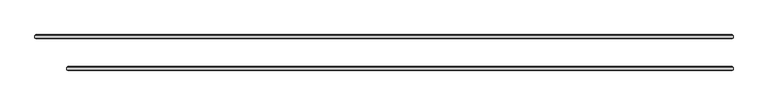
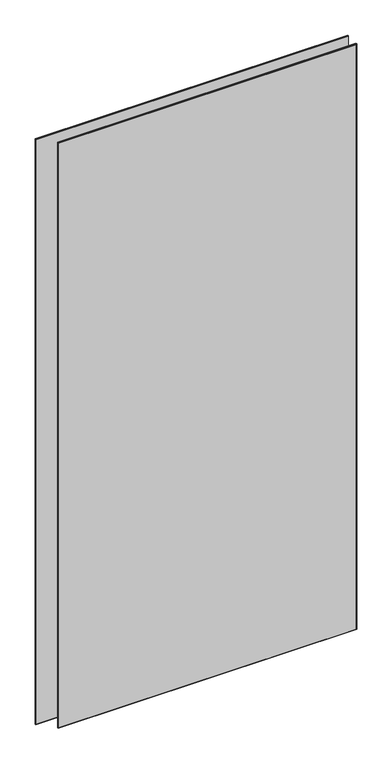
"""IFC4 building model written with IfcOpenShell, lengths in millimetres: plate geometry, 3-AMG-2-Панель двойной витраж 8, 10 : Смещение 32 Толщина 8mm."""

import ifcopenshell
import ifcopenshell.guid

model = None  # the IFC model being written
_history = None  # IfcOwnerHistory: only IFC2X3 demands one
_inside = {}  # id of a spatial element -> (the spatial element, [elements in it])
_under = {}  # id of a project, library or spatial element -> (it, [spatial elements below it])
_declared = {}  # id of a project -> (the project, [libraries it declares])
_typed = {}  # id of a type object -> (the type object, [elements of that type])
_made_of = {}  # id of a material, layer set ... -> (it, [elements and type objects made of it])


def new_model(schema):
    """Start an empty IFC model of exactly this schema.

    Asked for "IFC4X3", IfcOpenShell would pick the latest addendum, in which some entities
    have other attributes; the version numbers below select the first issue.
    IFC2X3 requires an IfcOwnerHistory on every rooted entity: one is made here for all.
    """
    global model, _history
    if schema == "IFC4X3":
        model = ifcopenshell.file(schema_version=(4, 3, 0, 0))
    else:
        model = ifcopenshell.file(schema=schema)
    _inside.clear()
    _under.clear()
    _declared.clear()
    _typed.clear()
    _made_of.clear()
    _history = None
    if model.schema == "IFC2X3":
        org = make("IfcOrganization", Name="unknown")
        user = make(
            "IfcPersonAndOrganization",
            ThePerson=make("IfcPerson", FamilyName="unknown"),
            TheOrganization=org,
        )
        app = make(
            "IfcApplication",
            ApplicationDeveloper=org,
            Version="unknown",
            ApplicationFullName="unknown",
            ApplicationIdentifier="unknown",
        )
        _history = make(
            "IfcOwnerHistory",
            OwningUser=user,
            OwningApplication=app,
            ChangeAction="ADDED",
            CreationDate=0,
        )
    return model


def make(cls, **values):
    """One entity of the class cls with the attributes given. An attribute that is None is left unset."""
    return model.create_entity(
        cls, **{name: value for name, value in values.items() if value is not None}
    )


def rooted(cls, **values):
    """An entity with a GlobalId (a new one), such as an element, a storey or a relation."""
    return make(cls, GlobalId=ifcopenshell.guid.new(), OwnerHistory=_history, **values)


def si_unit(unit_type, name, prefix=None):
    """IfcSIUnit, for example si_unit("LENGTHUNIT", "METRE", prefix="MILLI")."""
    return make("IfcSIUnit", UnitType=unit_type, Prefix=prefix, Name=name)


def assignment(units):
    """IfcUnitAssignment: the units of a project."""
    return None if units is None else make("IfcUnitAssignment", Units=units)


def point(xyz):
    """IfcCartesianPoint."""
    return None if xyz is None else make("IfcCartesianPoint", Coordinates=xyz)


def direction(xyz):
    """IfcDirection."""
    return None if xyz is None else make("IfcDirection", DirectionRatios=xyz)


def frame(location, z_axis=None, x_axis=None):
    """IfcAxis2Placement3D, a coordinate frame: its origin and axes. An axis left out is left unset."""
    return make(
        "IfcAxis2Placement3D",
        Location=point(location),
        Axis=direction(z_axis),
        RefDirection=direction(x_axis),
    )


def origin():
    """The frame at (0, 0, 0) with its axes left unset."""
    return frame((0.0, 0.0, 0.0))


def place(relative_to, where):
    """IfcLocalPlacement: puts the frame where relative to a parent placement (None: the world)."""
    return make(
        "IfcLocalPlacement", PlacementRelTo=relative_to, RelativePlacement=where
    )


def context(
    kind, dimensions, precision=None, world=None, true_north=None, identifier=None
):
    """IfcGeometricRepresentationContext, for example the 3D "Model" context."""
    return make(
        "IfcGeometricRepresentationContext",
        ContextIdentifier=identifier,
        ContextType=kind,
        CoordinateSpaceDimension=dimensions,
        Precision=precision,
        WorldCoordinateSystem=world,
        TrueNorth=true_north,
    )


def project(units=None, contexts=None):
    """IfcProject with its units and contexts."""
    return rooted(
        "IfcProject",
        Name="project",
        RepresentationContexts=contexts,
        UnitsInContext=assignment(units),
    )


def spatial(cls, under=None, at=None, **own):
    """A site, building, storey or space (cls), placed at a placement, below another one or the project."""
    s = rooted(cls, ObjectPlacement=at, **own)
    if under is not None:
        _under.setdefault(under.id(), (under, []))[1].append(s)
    return s


def faces_of(points, faces, orient=None, outer=None):
    """IfcFace entities. A face is a list of loops; a loop is a list of indices into points, from 0.

    orient and outer hold one flag for each loop. By default every Orientation is true, the
    first loop of a face is its IfcFaceOuterBound and the others are IfcFaceBound.
    """
    made = []
    for i, loops in enumerate(faces):
        bounds = []
        for j, loop in enumerate(loops):
            is_outer = j == 0 if outer is None else outer[i][j]
            bounds.append(
                make(
                    "IfcFaceOuterBound" if is_outer else "IfcFaceBound",
                    Bound=make("IfcPolyLoop", Polygon=[points[k] for k in loop]),
                    Orientation=True if orient is None else orient[i][j],
                )
            )
        made.append(make("IfcFace", Bounds=bounds))
    return made


def faceted_brep(points, faces, orient=None, outer=None, voids=None):
    """IfcFacetedBrep: a solid bounded by flat faces; with voids (closed shells), ...WithVoids."""
    shared = [point(p) for p in points]
    hull = make("IfcClosedShell", CfsFaces=faces_of(shared, faces, orient, outer))
    if voids is None:
        return make("IfcFacetedBrep", Outer=hull)
    return make(
        "IfcFacetedBrepWithVoids",
        Outer=hull,
        Voids=[
            make(cls, CfsFaces=faces_of(shared, fs, o, b)) for cls, fs, o, b in voids
        ],
    )


def shape(context_of_items, identifier, shape_type, items):
    """IfcShapeRepresentation: the items that make up one representation, for example the "Body"."""
    return make(
        "IfcShapeRepresentation",
        ContextOfItems=context_of_items,
        RepresentationIdentifier=identifier,
        RepresentationType=shape_type,
        Items=items,
    )


def source(mapping_origin, context_of_items, identifier, shape_type, items):
    """IfcRepresentationMap: a shape defined once, which mapped items show again and again."""
    return make(
        "IfcRepresentationMap",
        MappingOrigin=mapping_origin,
        MappedRepresentation=shape(context_of_items, identifier, shape_type, items),
    )


def transform(
    local_origin,
    x_axis=None,
    y_axis=None,
    z_axis=None,
    scale=None,
    scale2=None,
    scale3=None,
    uniform=True,
):
    """IfcCartesianTransformationOperator3D, or its non-uniform kind. x_axis, y_axis, z_axis: its Axis1, 2, 3."""
    if uniform:
        return make(
            "IfcCartesianTransformationOperator3D",
            Axis1=direction(x_axis),
            Axis2=direction(y_axis),
            LocalOrigin=point(local_origin),
            Scale=scale,
            Axis3=direction(z_axis),
        )
    return make(
        "IfcCartesianTransformationOperator3DnonUniform",
        Axis1=direction(x_axis),
        Axis2=direction(y_axis),
        LocalOrigin=point(local_origin),
        Scale=scale,
        Axis3=direction(z_axis),
        Scale2=scale2,
        Scale3=scale3,
    )


def mapped(mapping_source, mapping_target):
    """IfcMappedItem: shows the shape of a source again, moved by a transform."""
    return make(
        "IfcMappedItem", MappingSource=mapping_source, MappingTarget=mapping_target
    )


def made_of(thing, what):
    """Note that an element or type object is made of a material, layer set ...; save() writes the relation."""
    if what is not None:
        _made_of.setdefault(what.id(), (what, []))[1].append(thing)
    return thing


def element(
    cls,
    number,
    at=None,
    inside=None,
    cuts=None,
    type_object=None,
    material=None,
    context=None,
    identifier="Body",
    shape_type=None,
    held_by="IfcProductDefinitionShape",
    body=None,
    shapes=None,
    **own,
):
    """One element of the class cls, such as IfcWall. Its Tag is "e" and its number.

    at: its placement. inside: the storey or other place that contains it. cuts: it is an
    opening in that element (IfcRelVoidsElement). A single representation is given by context,
    identifier, shape_type and body (its items); several are given by shapes. held_by: the class
    of the entity that holds the representations. save() writes the other relations.
    """
    e = rooted(cls, Tag="e%d" % number, ObjectPlacement=at, **own)
    if body is not None:
        shapes = [shape(context, identifier, shape_type, body)]
    if shapes is not None:
        e.Representation = make(held_by, Representations=shapes)
    if inside is not None:
        _inside.setdefault(inside.id(), (inside, []))[1].append(e)
    if cuts is not None:
        rooted(
            "IfcRelVoidsElement", RelatingBuildingElement=cuts, RelatedOpeningElement=e
        )
    if type_object is not None:
        _typed.setdefault(type_object.id(), (type_object, []))[1].append(e)
    return made_of(e, material)


def aggregate(whole, parts):
    """IfcRelAggregates: a whole, such as a stair, and the parts it consists of."""
    return rooted("IfcRelAggregates", RelatingObject=whole, RelatedObjects=parts)


def save(model, path):
    """Write the relations noted so far, then the file.

    IfcRelAggregates (storeys below a building ...), IfcRelContainedInSpatialStructure (elements
    in a storey), IfcRelDefinesByType, IfcRelAssociatesMaterial and IfcRelDeclares: one each for
    every whole, place, type object, material and project.
    """
    for whole, parts in _under.values():
        aggregate(whole, parts)
    for where, things in _inside.values():
        rooted(
            "IfcRelContainedInSpatialStructure",
            RelatedElements=things,
            RelatingStructure=where,
        )
    for kind, things in _typed.values():
        rooted("IfcRelDefinesByType", RelatedObjects=things, RelatingType=kind)
    for what, things in _made_of.values():
        rooted("IfcRelAssociatesMaterial", RelatedObjects=things, RelatingMaterial=what)
    for by, libraries in _declared.values():
        rooted("IfcRelDeclares", RelatingContext=by, RelatedDefinitions=libraries)
    model.write(path)


def plate_84526c3b(model_context):
    return source(origin(), model_context, "Body", "Brep", [
        faceted_brep([(689.3000674, 34.4961653, 2751.0), (-706.3000674, 34.4961653, 2751.0), (-706.3000674, 29.5038347, 2751.0), (689.3000674, 29.5038347, 2751.0), (689.3000674, 29.4960578, -7.0), (-706.3000674, 29.4960578, -7.0), (-706.3000674, 34.4961653, -7.0), (689.3000674, 34.4961653, -7.0), (-704.7962327, 28.0, 2749.4961653), (-704.7962327, 28.0, -5.5039422), (687.7962327, 28.0, -5.5039422), (687.7962327, 28.0, 2749.4961653), (687.7962327, 36.0, 2749.4961653), (687.7962327, 36.0, -5.4961653), (-704.7962327, 36.0, -5.4961653), (-704.7962327, 36.0, 2749.4961653)], [[[0, 1, 2, 3]], [[4, 5, 6, 7]], [[8, 9, 10, 11]], [[1, 6, 5, 2]], [[12, 13, 14, 15]], [[3, 4, 7, 0]], [[3, 11, 10, 4]], [[7, 13, 12, 0]], [[0, 12, 15, 1]], [[2, 8, 11, 3]], [[5, 9, 8, 2]], [[1, 15, 14, 6]], [[6, 14, 13, 7]], [[4, 10, 9, 5]]]),
        faceted_brep([(689.3000674, -29.5038347, 2751.0), (-642.3000674, -29.5038347, 2751.0), (-642.3000674, -34.4961653, 2751.0), (689.3000674, -34.4961653, 2751.0), (689.3000674, -34.5039422, -7.0), (-642.3000674, -34.5039422, -7.0), (-642.3000674, -29.5038347, -7.0), (689.3000674, -29.5038347, -7.0), (-640.7962327, -36.0, 2749.4961653), (-640.7962327, -36.0, -5.5039422), (687.7962327, -36.0, -5.5039422), (687.7962327, -36.0, 2749.4961653), (687.7962327, -28.0, 2749.4961653), (687.7962327, -28.0, -5.4961653), (-640.7962327, -28.0, -5.4961653), (-640.7962327, -28.0, 2749.4961653)], [[[0, 1, 2, 3]], [[4, 5, 6, 7]], [[8, 9, 10, 11]], [[1, 6, 5, 2]], [[12, 13, 14, 15]], [[3, 4, 7, 0]], [[3, 11, 10, 4]], [[7, 13, 12, 0]], [[5, 9, 8, 2]], [[1, 15, 14, 6]], [[0, 12, 15, 1]], [[2, 8, 11, 3]], [[6, 14, 13, 7]], [[4, 10, 9, 5]]]),
    ])


if __name__ == "__main__":
    model = new_model("IFC4")
    model_context = context("Model", 3, world=origin())
    ifc_project = project(units=[si_unit("LENGTHUNIT", "METRE", prefix="MILLI")], contexts=[model_context])
    site = spatial("IfcSite", under=ifc_project)
    building = spatial("IfcBuilding", under=site)
    placement = place(None, origin())
    plate_shape = plate_84526c3b(model_context)
    element("IfcPlate", 1, ObjectType="3-AMG-2-Панель двойной витраж 8, 10 : Смещение 32 Толщина 8mm", at=placement, inside=building, context=model_context, shape_type="MappedRepresentation", body=[
        mapped(plate_shape, transform((0.0, 0.0, 0.0), x_axis=(1.0, 0.0, 0.0), y_axis=(0.0, 1.0, 0.0), z_axis=(0.0, 0.0, 1.0))),
    ])
    save(model, "model.ifc")
